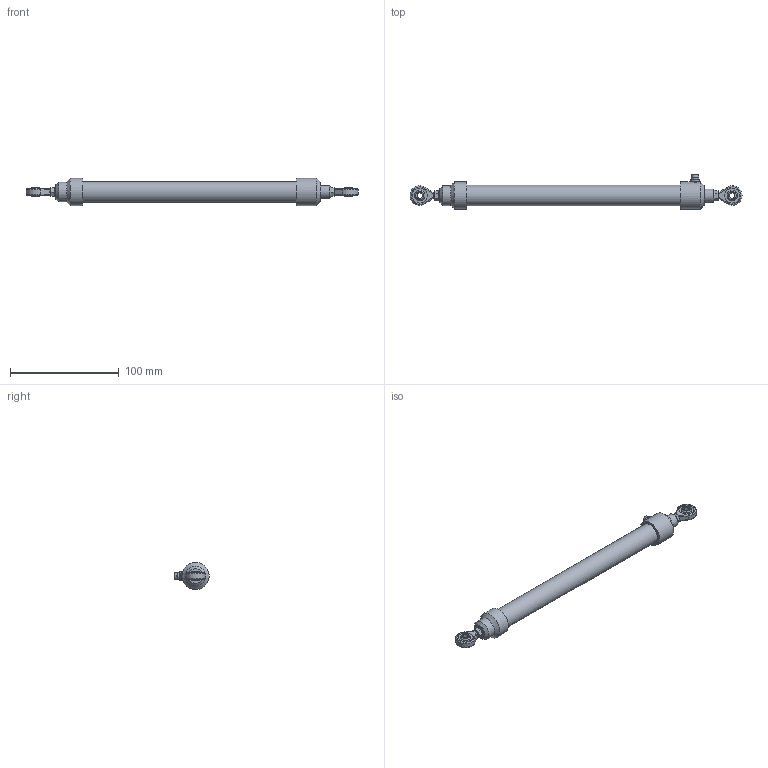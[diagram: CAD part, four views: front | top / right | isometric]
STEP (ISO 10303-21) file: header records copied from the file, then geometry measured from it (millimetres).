
FILE_DESCRIPTION(/* description */ ('STEP AP203'),/* implementation_level */ '2;1');
FILE_NAME(/* name */ 'RC20 150 G S IP67',/* time_stamp */ '2025-04-03T11:09:42+02:00',/* author */ ('License CC BY-ND 4.0'),/* organization */ ('CADENAS'),/* preprocessor_version */ 'ST-DEVELOPER v19.3',/* originating_system */ 'PARTsolutions',/* authorisation */ ' ');
FILE_SCHEMA (('CONFIG_CONTROL_DESIGN'));
Length unit declared in the file: millimetre
Products named in the file (9): RC20 150 G S IP67; 1155150PZ67-A; 151PZ67-A0; 152PZ67-A0; MPZ0; RE17; Hexagonal nut ISO 4032 M4; 121150PZ67A; Washer ISO 7089 9
Assembly tree (10 placements, depth 2):
  RC20 150 G S IP67
    1155150PZ67-A
    151PZ67-A0
    152PZ67-A0
    MPZ0
    RE17  x2
    Hexagonal nut ISO 4032 M4  x2
    121150PZ67A
    Washer ISO 7089 9
Bounding box: 305.98 x 31.55 x 25 mm (x, y, z)
Volume: 51488.6 mm3; surface area: 37549.7 mm2
Topology: 10 solids, 10 shells, 157 faces, 300 edges, 182 vertices
Faces by surface type: plane 65, cylinder 44, cone 37, sphere 7, torus 4
Full cylindrical faces by diameter (mm): 1 x3, 3.242 x2, 3.3 x1, 4.3 x1, 5 x5, 5.8 x2, 5.85 x1, 6 x1, 6.9 x2, 7.1 x1, 7.5 x1, 8 x1, 9 x1, 12 x1, 13.9 x4, 14.2 x1, 18.4 x1, 19 x1, 19.2 x2, 25 x2
Entity records: 2843 total; most frequent: CARTESIAN_POINT 476, DIRECTION 446, ORIENTED_EDGE 292, AXIS2_PLACEMENT_3D 211, EDGE_LOOP 176, FACE_BOUND 176, EDGE_CURVE 146, VERTEX_POINT 114
